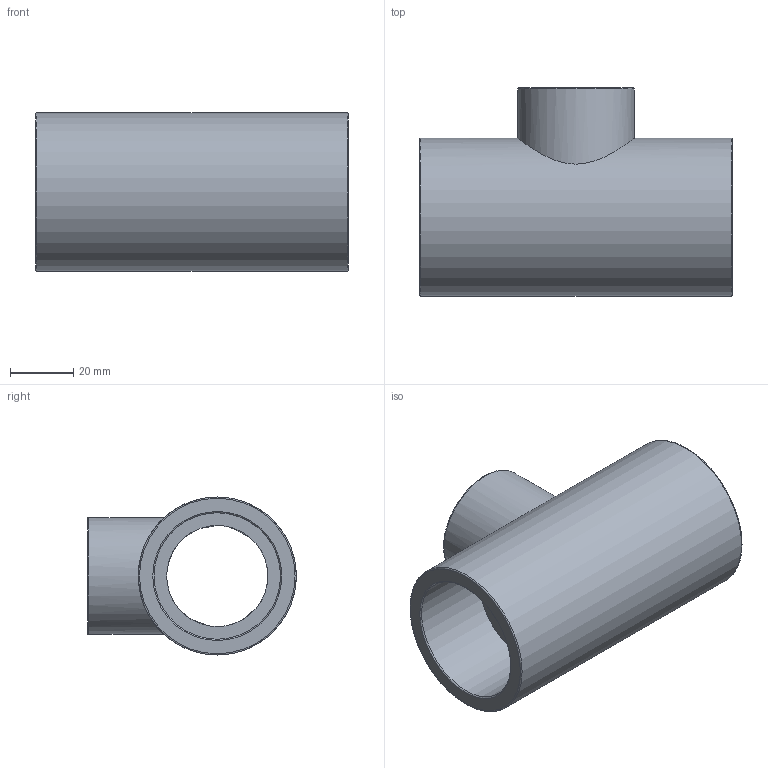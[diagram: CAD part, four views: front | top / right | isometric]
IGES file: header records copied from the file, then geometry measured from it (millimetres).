
Global section: file name: 051400040025.ipt; native system: Autodesk Inventor 2015; preprocessor: unknown; author: KIM; date: 20171207.165215; units: millimetre
Bounding box: 99 x 66 x 50 mm (x, y, z)
Volume: 97811.3 mm3; surface area: 32501.2 mm2
Topology: 1 solids, 1 shells, 19 faces, 58 edges, 44 vertices
Faces by surface type: revolution 11, plane 6, cylinder 2
Full cylindrical faces by diameter (mm): 37 x1, 50 x1
